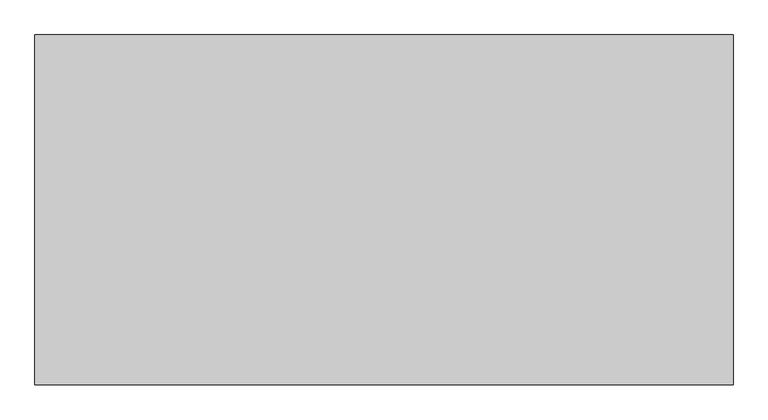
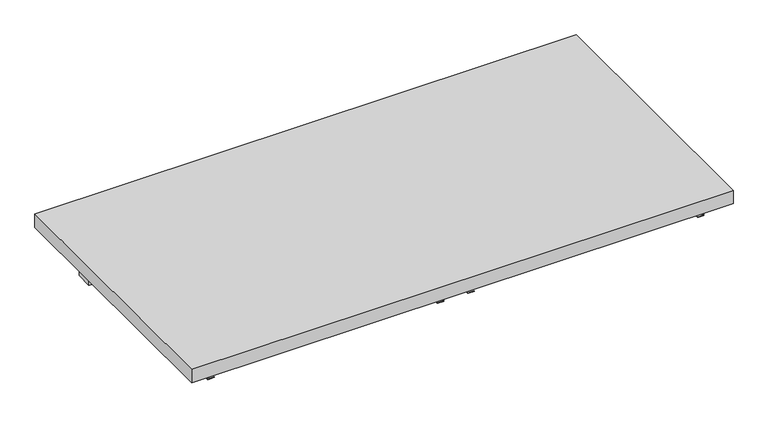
"""IFC4 building model written with IfcOpenShell, lengths in millimetres: furniture geometry."""

from ifc_helpers import new_model, si_unit, frame, origin, place, context, project, spatial, polyline, outline, extrude, source, transform, mapped, element, save


def furniture_de886b3f(model_context):
    return source(origin(), model_context, "Body", "SweptSolid", [
        extrude(outline(polyline([(912.8125, 177.8), (912.8125, -431.8), (-303.2125, -431.8), (-303.2125, 177.8), (912.8125, 177.8)])), frame((0.0, 0.0, 882.65), z_axis=(0.0, 0.0, 1.0), x_axis=(1.0, 0.0, 0.0)), (0.0, 0.0, 1.0), 31.75),
        extrude(outline(polyline([(879.475, 63.5), (879.475, 25.4), (-269.875, 25.4), (-269.875, 63.5), (879.475, 63.5)])), frame((0.0, 0.0, 825.5), z_axis=(0.0, 0.0, 1.0), x_axis=(1.0, 0.0, 0.0)), (0.0, 0.0, 1.0), 57.15),
        extrude(outline(polyline([(858.8375, 333.375), (882.65, 333.375), (882.65, 331.7875), (857.25, 331.7875), (857.25, 346.075), (858.8375, 346.075), (858.8375, 333.375)])), frame((0.0, -406.4, 0.0), z_axis=(0.0, 1.0, 0.0), x_axis=(0.0, 0.0, 1.0)), (0.0, 0.0, 1.0), 390.525),
        extrude(outline(polyline([(858.8375, 276.225), (858.8375, 263.525), (857.25, 263.525), (857.25, 277.8125), (882.65, 277.8125), (882.65, 276.225), (858.8375, 276.225)])), frame((0.0, -406.4, 0.0), z_axis=(0.0, 1.0, 0.0), x_axis=(0.0, 0.0, 1.0)), (0.0, 0.0, 1.0), 390.525),
        extrude(outline(polyline([(858.8375, -250.825), (882.65, -250.825), (882.65, -252.4125), (857.25, -252.4125), (857.25, -238.125), (858.8375, -238.125), (858.8375, -250.825)])), frame((0.0, -406.4, 0.0), z_axis=(0.0, 1.0, 0.0), x_axis=(0.0, 0.0, 1.0)), (0.0, 0.0, 1.0), 390.525),
        extrude(outline(polyline([(858.8375, 860.425), (858.8375, 847.725), (857.25, 847.725), (857.25, 862.0125), (882.65, 862.0125), (882.65, 860.425), (858.8375, 860.425)])), frame((0.0, -406.4, 0.0), z_axis=(0.0, 1.0, 0.0), x_axis=(0.0, 0.0, 1.0)), (0.0, 0.0, 1.0), 390.525),
    ])


if __name__ == "__main__":
    model = new_model("IFC4")
    model_context = context("Model", 3, world=origin())
    ifc_project = project(units=[si_unit("LENGTHUNIT", "METRE", prefix="MILLI")], contexts=[model_context])
    site = spatial("IfcSite", under=ifc_project)
    building = spatial("IfcBuilding", under=site)
    placement = place(None, origin())
    furniture_shape = furniture_de886b3f(model_context)
    element("IfcFurniture", 1, ObjectType="HermanMiller_CoStruc_C2141_Heavy-DutyWorkSurface : 24\"D x 48\"W Lam", at=placement, inside=building, context=model_context, shape_type="MappedRepresentation", body=[
        mapped(furniture_shape, transform((0.0, 0.0, 0.0), x_axis=(1.0, 0.0, 0.0), y_axis=(0.0, 1.0, 0.0), z_axis=(0.0, 0.0, 1.0))),
    ])
    save(model, "model.ifc")
